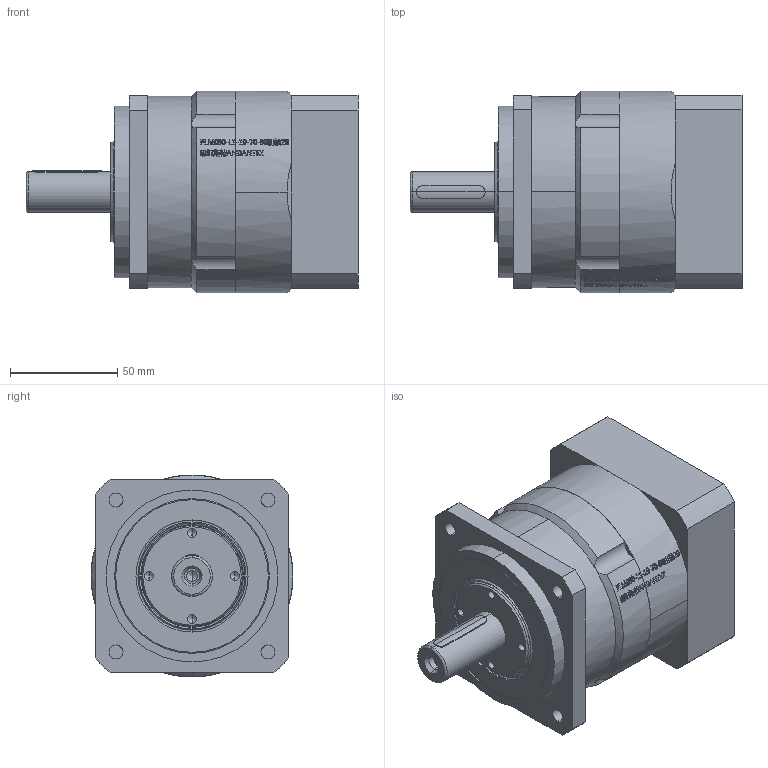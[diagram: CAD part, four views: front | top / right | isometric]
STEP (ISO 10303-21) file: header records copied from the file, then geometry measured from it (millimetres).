
FILE_DESCRIPTION (( 'STEP AP214' ), '1' );
FILE_NAME ('PLM90-L1-19-70-90-³öÖá19.STEP', '2024-05-23T05:55:26', ( 'Windows User' ), ( 'P R C' ), 'SwSTEP 2.0', 'SolidWorks 2016', '' );
FILE_SCHEMA (( 'AUTOMOTIVE_DESIGN' ));
Length unit declared in the file: millimetre
Products named in the file (5): 内六角圆柱头螺钉M6×16; 油封範本 TC 72x50x8_TC-34.9-55-7; PLM90-帣釱; 奻裔啣-20; PLM90-L1-19-70-90-堤粣19
Assembly tree (4 placements, depth 2):
  PLM90-L1-19-70-90-堤粣19
    奻裔啣-20
    PLM90-帣釱
    油封範本 TC 72x50x8_TC-34.9-55-7
    内六角圆柱头螺钉M6×16
Bounding box: 154.5 x 94 x 94 mm (x, y, z)
Volume: 364583.9 mm3; surface area: 108780.5 mm2
Topology: 12 solids, 14 shells, 929 faces, 2473 edges, 1623 vertices
Faces by surface type: plane 524, bspline 179, cylinder 165, cone 41, torus 20
Entity records: 36897 total; most frequent: CARTESIAN_POINT 14447, ORIENTED_EDGE 4900, DIRECTION 4069, EDGE_CURVE 2453, VERTEX_POINT 1623, LINE 1411, VECTOR 1411, AXIS2_PLACEMENT_3D 1329
